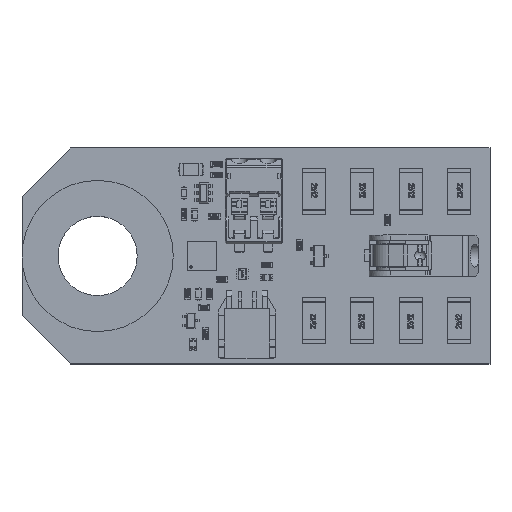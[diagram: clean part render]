
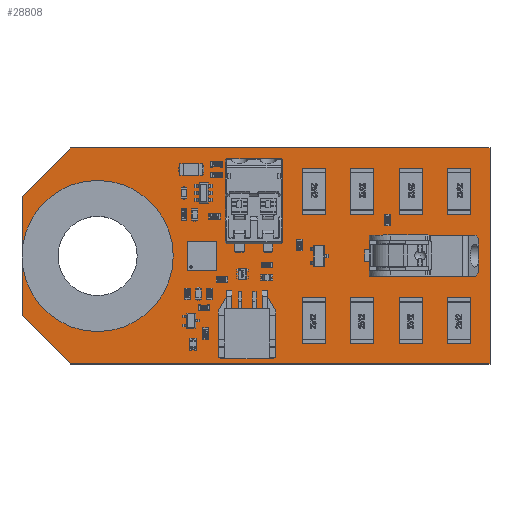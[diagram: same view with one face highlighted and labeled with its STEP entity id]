
A CAD part, top view. The second image highlights one B-rep face of the part: STEP entity #28808.
In plain terms, the highlighted planar face has unit normal (0, 0, 1).
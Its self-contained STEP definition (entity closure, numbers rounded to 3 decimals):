
#1085=PLANE('',#30763);
#2758=FACE_OUTER_BOUND('',#4372,.T.);
#4372=EDGE_LOOP('',(#19968,#19969,#19970,#19971,#19972,#19973,#19974,#19975));
#6021=LINE('',#41157,#9163);
#6022=LINE('',#41159,#9164);
#6023=LINE('',#41161,#9165);
#6024=LINE('',#41163,#9166);
#6025=LINE('',#41165,#9167);
#6026=LINE('',#41166,#9168);
#6027=LINE('',#41167,#9169);
#9163=VECTOR('',#33188,1.);
#9164=VECTOR('',#33189,1.);
#9165=VECTOR('',#33190,1.);
#9166=VECTOR('',#33191,1.);
#9167=VECTOR('',#33192,1.);
#9168=VECTOR('',#33193,1.);
#9169=VECTOR('',#33194,1.);
#12305=CIRCLE('',#30760,10.5);
#12986=VERTEX_POINT('',#41148);
#12988=VERTEX_POINT('',#41155);
#12989=VERTEX_POINT('',#41156);
#12990=VERTEX_POINT('',#41158);
#12991=VERTEX_POINT('',#41160);
#12992=VERTEX_POINT('',#41162);
#12993=VERTEX_POINT('',#41164);
#15725=EDGE_CURVE('',#12986,#12986,#12305,.T.);
#15727=EDGE_CURVE('',#12988,#12989,#6021,.T.);
#15728=EDGE_CURVE('',#12989,#12990,#6022,.T.);
#15729=EDGE_CURVE('',#12990,#12991,#6023,.T.);
#15730=EDGE_CURVE('',#12991,#12992,#6024,.T.);
#15731=EDGE_CURVE('',#12992,#12993,#6025,.T.);
#15732=EDGE_CURVE('',#12993,#12986,#6026,.T.);
#15733=EDGE_CURVE('',#12986,#12988,#6027,.T.);
#19968=ORIENTED_EDGE('',*,*,#15727,.T.);
#19969=ORIENTED_EDGE('',*,*,#15728,.T.);
#19970=ORIENTED_EDGE('',*,*,#15729,.T.);
#19971=ORIENTED_EDGE('',*,*,#15730,.T.);
#19972=ORIENTED_EDGE('',*,*,#15731,.T.);
#19973=ORIENTED_EDGE('',*,*,#15732,.T.);
#19974=ORIENTED_EDGE('',*,*,#15725,.T.);
#19975=ORIENTED_EDGE('',*,*,#15733,.T.);
#28808=ADVANCED_FACE('',(#2758),#1085,.F.);
#30760=AXIS2_PLACEMENT_3D('',#41150,#33180,#33181);
#30763=AXIS2_PLACEMENT_3D('',#41154,#33186,#33187);
#33180=DIRECTION('center_axis',(0.,0.,-1.));
#33181=DIRECTION('ref_axis',(1.,0.,0.));
#33186=DIRECTION('center_axis',(0.,0.,-1.));
#33187=DIRECTION('ref_axis',(-1.,0.,0.));
#33188=DIRECTION('',(0.707,-0.707,0.));
#33189=DIRECTION('',(1.,0.,0.));
#33190=DIRECTION('',(0.,1.,0.));
#33191=DIRECTION('',(-1.,0.,0.));
#33192=DIRECTION('',(-0.707,-0.707,0.));
#33193=DIRECTION('',(0.,-1.,0.));
#33194=DIRECTION('',(0.,-1.,0.));
#41148=CARTESIAN_POINT('',(-32.25,-7.5,1.646));
#41150=CARTESIAN_POINT('Origin',(-21.75,-7.5,1.646));
#41154=CARTESIAN_POINT('Origin',(-32.25,-15.75,1.646));
#41155=CARTESIAN_POINT('',(-32.25,-15.75,1.646));
#41156=CARTESIAN_POINT('',(-25.5,-22.5,1.646));
#41157=CARTESIAN_POINT('',(-32.25,-15.75,1.646));
#41158=CARTESIAN_POINT('',(32.75,-22.5,1.646));
#41159=CARTESIAN_POINT('',(-25.5,-22.5,1.646));
#41160=CARTESIAN_POINT('',(32.75,7.5,1.646));
#41161=CARTESIAN_POINT('',(32.75,-22.5,1.646));
#41162=CARTESIAN_POINT('',(-25.5,7.5,1.646));
#41163=CARTESIAN_POINT('',(32.75,7.5,1.646));
#41164=CARTESIAN_POINT('',(-32.25,0.75,1.646));
#41165=CARTESIAN_POINT('',(-25.5,7.5,1.646));
#41166=CARTESIAN_POINT('',(-32.25,0.75,1.646));
#41167=CARTESIAN_POINT('',(-32.25,0.75,1.646));
